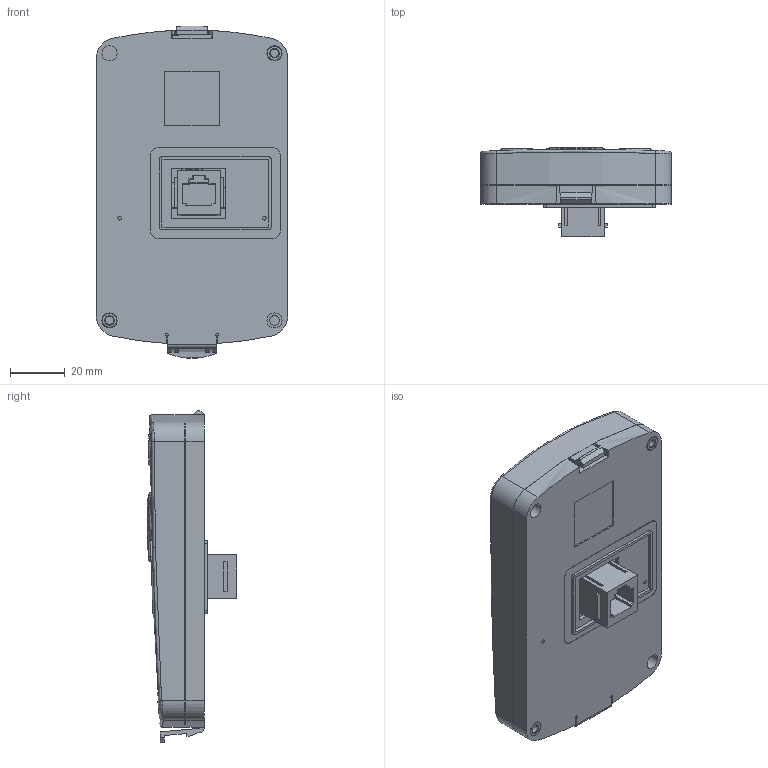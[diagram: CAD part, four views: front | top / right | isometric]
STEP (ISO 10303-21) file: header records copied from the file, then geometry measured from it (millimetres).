
FILE_DESCRIPTION((''),'2;1');
FILE_NAME('IS7-KEYPAD_ASSY-F_ASM','2024-02-28T14:41:05',('A003218518'),(''),'CREO PARAMETRIC BY PTC INC, 2020354','CREO PARAMETRIC BY PTC INC, 2020354','');
FILE_SCHEMA(('CONFIG_CONTROL_DESIGN'));
Length unit declared in the file: millimetre
Products named in the file (14): IS7-KEYPAD_CASE-F; KEYPAD_INSERT_NUT_M3; IS7-KEYPAD_RUBBER_PACKING-F; IS7-KEYPAD_CASE_ASSY-F_ASM; IS7-KEYPAD_MODULAR_JACK_AR657PT; IS7-KEYPAD_LCD; IS7-KEYPAD_PCB_ASSY-F_ASM; IS7-KEYPAD_RUBBER_BUTTOM-F; IS7-KEYPAD_RUBBER_BUTTOM_ASSY-F_ASM; IS7_008037-KEYPAD_COVER-F; IS7-KEYPAD_LED_BAR-F; IS7-KEYPAD_PROTECTION_PLATE-F; IS7-KEYPAD_COVER_ASSY-F_ASM; IS7-KEYPAD_ASSY-F_ASM
Assembly tree (16 placements, depth 3):
  IS7-KEYPAD_ASSY-F_ASM
    IS7-KEYPAD_CASE_ASSY-F_ASM
      IS7-KEYPAD_CASE-F
      KEYPAD_INSERT_NUT_M3  x2
      IS7-KEYPAD_RUBBER_PACKING-F
    IS7-KEYPAD_PCB_ASSY-F_ASM
      IS7-KEYPAD_MODULAR_JACK_AR657PT
      IS7-KEYPAD_LCD
    IS7-KEYPAD_RUBBER_BUTTOM_ASSY-F_ASM
      IS7-KEYPAD_RUBBER_BUTTOM-F
    IS7-KEYPAD_COVER_ASSY-F_ASM
      IS7_008037-KEYPAD_COVER-F
      IS7-KEYPAD_LED_BAR-F  x3
      IS7-KEYPAD_PROTECTION_PLATE-F
Bounding box: 70 x 32.85 x 121.53 mm (x, y, z)
Volume: 64423.9 mm3; surface area: 79745.3 mm2
Topology: 12 solids, 12 shells, 1572 faces, 3954 edges, 2497 vertices
Faces by surface type: plane 675, cylinder 510, cone 151, bspline 121, torus 99, sphere 10, extrusion 4, revolution 2
Entity records: 52297 total; most frequent: CARTESIAN_POINT 16155, ORIENTED_EDGE 7612, DIRECTION 7347, EDGE_CURVE 3806, AXIS2_PLACEMENT_3D 2714, VERTEX_POINT 2410, VECTOR 1917, LINE 1913
